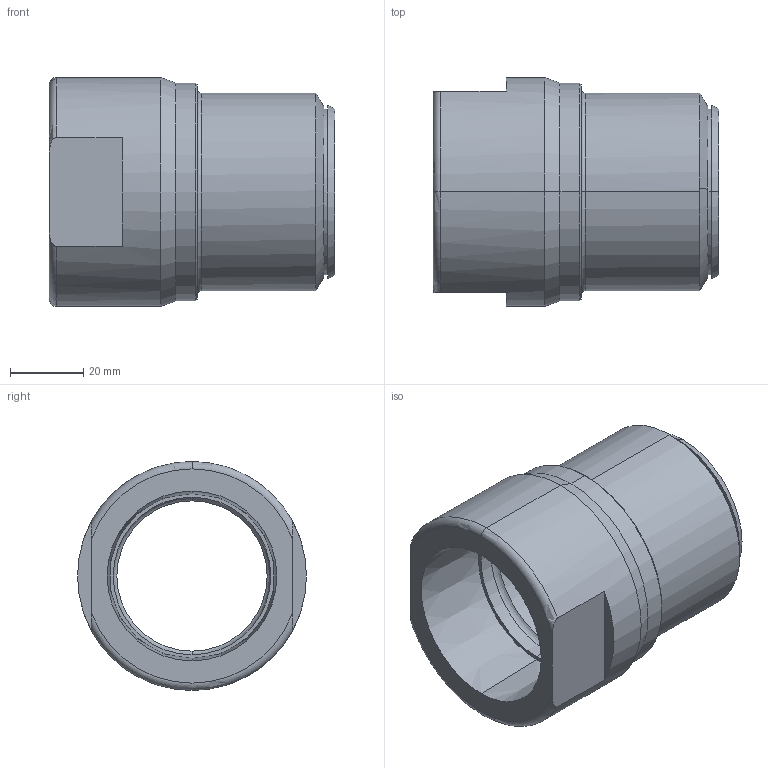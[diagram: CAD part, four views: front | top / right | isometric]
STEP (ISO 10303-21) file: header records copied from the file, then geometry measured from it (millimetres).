
FILE_DESCRIPTION (( 'STEP AP203' ), '1' );
FILE_NAME ('KP_C15-54F.step', '2011-08-08T12:03:58', ( '' ), ( '' ), 'SwSTEP 2.0', 'SolidWorks 2011', '' );
FILE_SCHEMA (( 'CONFIG_CONTROL_DESIGN' ));
Length unit declared in the file: millimetre
Products named in the file (1): KP_C15-54F
Bounding box: 78 x 62.5 x 62.5 mm (x, y, z)
Volume: 91367.5 mm3; surface area: 27133.4 mm2
Topology: 1 solids, 1 shells, 41 faces, 90 edges, 55 vertices
Faces by surface type: cylinder 12, cone 12, plane 10, torus 7
Entity records: 1283 total; most frequent: CARTESIAN_POINT 259, DIRECTION 224, ORIENTED_EDGE 180, AXIS2_PLACEMENT_3D 96, EDGE_CURVE 90, VERTEX_POINT 55, CIRCLE 54, EDGE_LOOP 47
